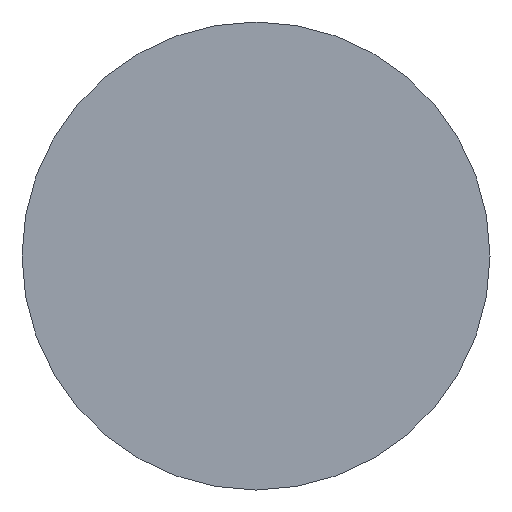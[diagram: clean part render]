
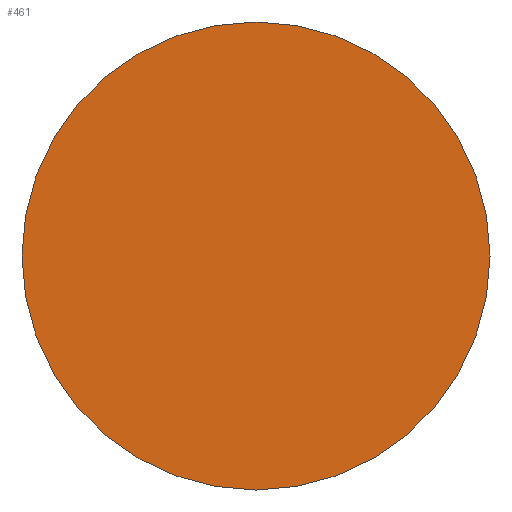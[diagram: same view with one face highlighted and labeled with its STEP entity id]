
A CAD part, left-side view. The second image highlights one B-rep face of the part: STEP entity #461.
In plain terms, the highlighted planar face has unit normal (-1, 0, 0).
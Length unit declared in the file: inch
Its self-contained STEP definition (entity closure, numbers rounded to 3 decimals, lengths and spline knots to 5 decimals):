
#109=FACE_OUTER_BOUND('',#143,.T.);
#143=EDGE_LOOP('',(#375,#376));
#182=CIRCLE('',#518,0.625);
#183=CIRCLE('',#520,0.625);
#220=VERTEX_POINT('',#843);
#221=VERTEX_POINT('',#845);
#277=EDGE_CURVE('',#220,#221,#182,.T.);
#279=EDGE_CURVE('',#220,#221,#183,.T.);
#375=ORIENTED_EDGE('',*,*,#279,.T.);
#376=ORIENTED_EDGE('',*,*,#277,.F.);
#435=PLANE('',#521);
#461=ADVANCED_FACE('',(#109),#435,.F.);
#518=AXIS2_PLACEMENT_3D('',#846,#627,#628);
#520=AXIS2_PLACEMENT_3D('',#849,#632,#633);
#521=AXIS2_PLACEMENT_3D('',#850,#634,#635);
#627=DIRECTION('center_axis',(1.,0.,0.));
#628=DIRECTION('ref_axis',(0.,1.,0.));
#632=DIRECTION('center_axis',(-1.,0.,0.));
#633=DIRECTION('ref_axis',(0.,1.,0.));
#634=DIRECTION('center_axis',(1.,0.,0.));
#635=DIRECTION('ref_axis',(0.,-1.,0.));
#843=CARTESIAN_POINT('',(-1.34,0.625,0.));
#845=CARTESIAN_POINT('',(-1.34,-0.625,0.));
#846=CARTESIAN_POINT('Origin',(-1.34,0.,0.));
#849=CARTESIAN_POINT('Origin',(-1.34,0.,0.));
#850=CARTESIAN_POINT('Origin',(-1.34,0.,0.));
